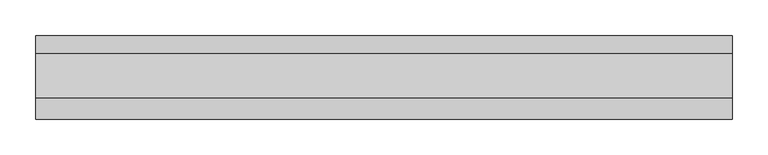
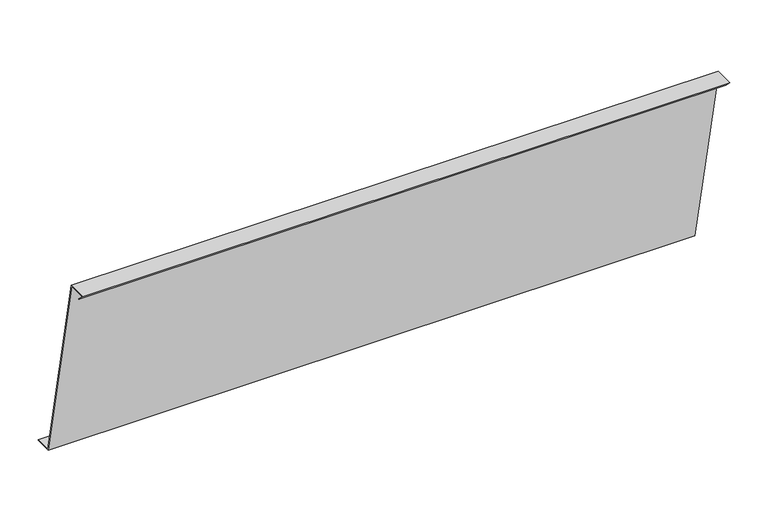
"""IFC4 building model written with IfcOpenShell, lengths in millimetres: proxy geometry, Отлив : Тип."""

from ifc_helpers import new_model, si_unit, frame, origin, place, context, project, spatial, polyline, outline, extrude, source, transform, mapped, element, save


def generic_models_17260e46(model_context):
    return source(origin(), model_context, "Body", "SweptSolid", [
        extrude(outline(polyline([(61.8346667, -249.2), (87.0, -249.2), (87.0, -250.0), (61.1830942, -250.0), (-0.6515725, 49.2), (-28.0686292, 49.2), (-18.8277129, 39.9590837), (-19.3933983, 39.3933983), (-30.0, 50.0), (0.0, 50.0), (61.8346667, -249.2)])), frame((0.0, 0.0, 0.0), z_axis=(1.0, 0.0, 0.0), x_axis=(0.0, 1.0, 0.0)), (0.0, 0.0, 1.0), 977.0),
    ])


if __name__ == "__main__":
    model = new_model("IFC4")
    model_context = context("Model", 3, world=origin())
    ifc_project = project(units=[si_unit("LENGTHUNIT", "METRE", prefix="MILLI")], contexts=[model_context])
    site = spatial("IfcSite", under=ifc_project)
    building = spatial("IfcBuilding", under=site)
    placement = place(None, origin())
    generic_models_shape = generic_models_17260e46(model_context)
    element("IfcBuildingElementProxy", 1, Name="Отлив : Тип", ObjectType="Отлив : Тип", at=placement, inside=building, context=model_context, shape_type="MappedRepresentation", body=[
        mapped(generic_models_shape, transform((0.0, 0.0, 0.0), x_axis=(1.0, 0.0, 0.0), y_axis=(0.0, 1.0, 0.0), z_axis=(0.0, 0.0, 1.0))),
    ])
    save(model, "model.ifc")
